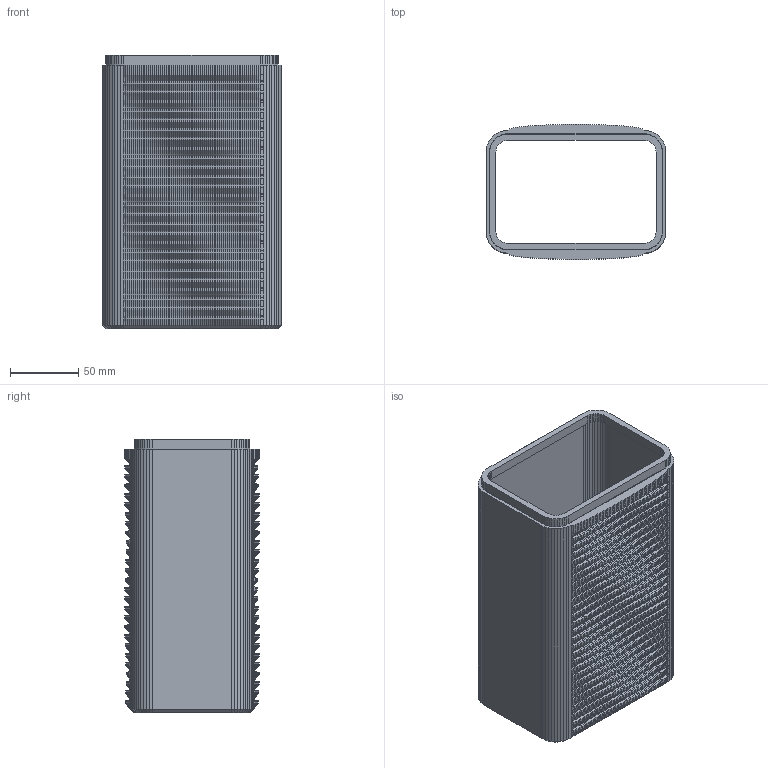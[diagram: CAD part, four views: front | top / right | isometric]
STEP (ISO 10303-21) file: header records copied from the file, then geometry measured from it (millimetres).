
FILE_DESCRIPTION(('Open CASCADE Model'),'2;1');
FILE_NAME('Open CASCADE Shape Model','2026-10-16T13:31:54',('Author'),( 'Open CASCADE'),'Open CASCADE STEP processor 7.9','Open CASCADE 7.9' ,'Unknown');
FILE_SCHEMA(('AUTOMOTIVE_DESIGN { 1 0 10303 214 1 1 1 1 }'));
Length unit declared in the file: millimetre
Products named in the file (3): Open CASCADE STEP translator 7.9 5; Open CASCADE STEP translator 7.9 5.1; Open CASCADE STEP translator 7.9 5.2
Assembly tree (2 placements, depth 2):
  Open CASCADE STEP translator 7.9 5
    Open CASCADE STEP translator 7.9 5.1
    Open CASCADE STEP translator 7.9 5.2
Bounding box: 132 x 99 x 200.4 mm (x, y, z)
Volume: 256485.6 mm3; surface area: 182526.9 mm2
Topology: 2 solids, 2 shells, 11669 faces, 23901 edges, 12230 vertices
Faces by surface type: bspline 7599, plane 4060, cylinder 10
Entity records: 569317 total; most frequent: CARTESIAN_POINT 147302, DIRECTION 52118, ORIENTED_EDGE 47802, PCURVE 47802, DEFINITIONAL_REPRESENTATION 47802, LINE 43897, VECTOR 43897, B_SPLINE_CURVE_WITH_KNOTS 27756
